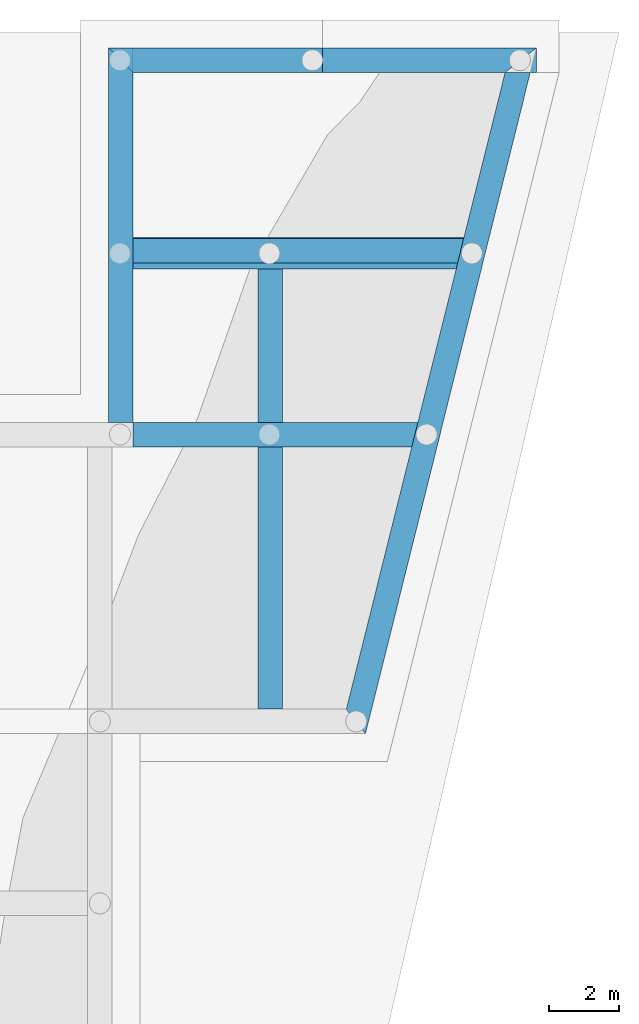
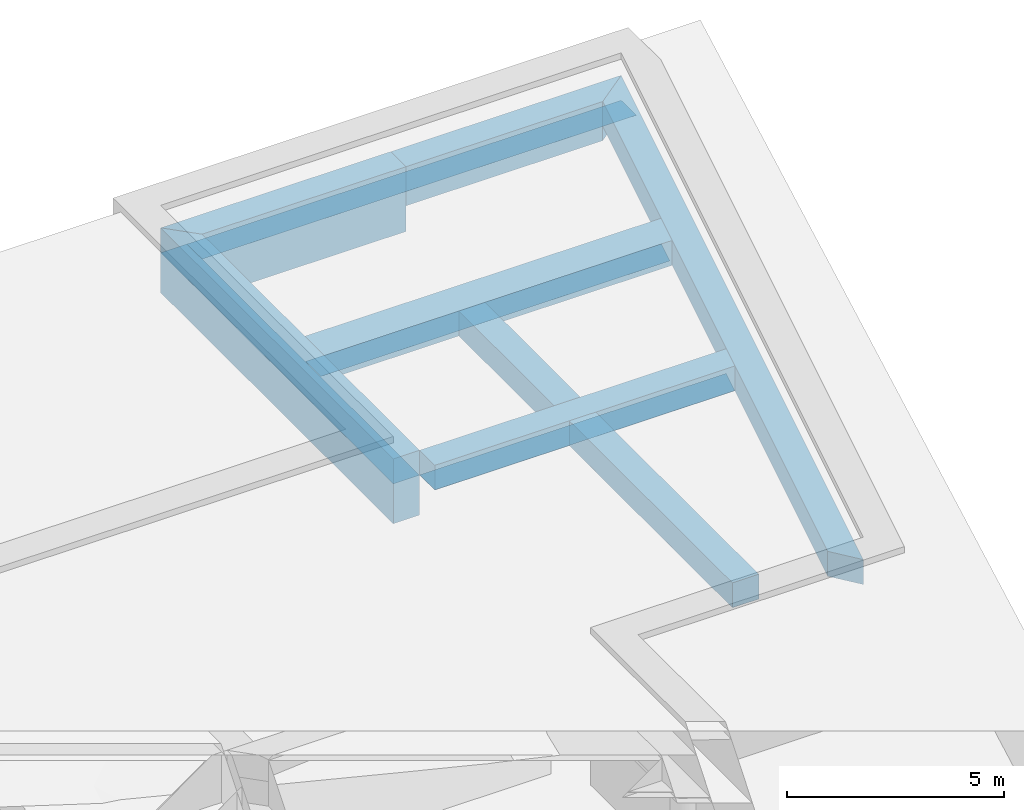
# One storey, part 4 of 7: 12 walls.
"""IFC2X3 building model written with IfcOpenShell, lengths in millimetres."""

from ifc_helpers import new_model, entity, si_unit, converted_unit, derived_unit, money_unit, direction, frame, origin_with_axes, place, context, subcontext, project, spatial, polyline, outline, extrude, material, layer, layer_set, layer_usage, type_object, element, save


model = new_model("IFC2X3")

# Units and contexts
model_context = context("Model", 3, precision=0.01, world=origin_with_axes(), true_north=direction((0.0, 1.0)))
body_context = subcontext(model_context, "Body", "Model", "MODEL_VIEW")
ifc_project = project(units=[si_unit("LENGTHUNIT", "METRE", prefix="MILLI"), si_unit("AREAUNIT", "SQUARE_METRE"), si_unit("VOLUMEUNIT", "CUBIC_METRE"), converted_unit("PLANEANGLEUNIT", "DEGREE", entity("IfcPlaneAngleMeasure", 0.0174532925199), si_unit("PLANEANGLEUNIT", "RADIAN"), dimensions=[0, 0, 0, 0, 0, 0, 0]), money_unit("USD"), converted_unit("TIMEUNIT", "Year", entity("IfcTimeMeasure", 31556926.0), si_unit("TIMEUNIT", "SECOND"), dimensions=[0, 0, 1, 0, 0, 0, 0]), si_unit("MASSUNIT", "GRAM", prefix="KILO"), si_unit("THERMODYNAMICTEMPERATUREUNIT", "DEGREE_CELSIUS"), si_unit("LUMINOUSINTENSITYUNIT", "LUMEN"), si_unit("ENERGYUNIT", "JOULE", prefix="MEGA"), derived_unit("THERMALCONDUCTANCEUNIT", [(si_unit("POWERUNIT", "WATT"), 1), (si_unit("LENGTHUNIT", "METRE"), -1), (si_unit("THERMODYNAMICTEMPERATUREUNIT", "KELVIN"), -1)]), derived_unit("SPECIFICHEATCAPACITYUNIT", [(si_unit("ENERGYUNIT", "JOULE"), 1), (si_unit("MASSUNIT", "GRAM", prefix="KILO"), -1), (si_unit("THERMODYNAMICTEMPERATUREUNIT", "KELVIN"), -1)]), derived_unit("MASSDENSITYUNIT", [(si_unit("MASSUNIT", "GRAM", prefix="KILO"), 1), (si_unit("VOLUMEUNIT", "CUBIC_METRE"), -1)])], contexts=[model_context])

# Site, building, storey
site_placement = place(None, frame((9669.71692459, 4224.13032188, 0.0), z_axis=(0.0, 0.0, 1.0), x_axis=(1.0, 0.0, 0.0)))
site = spatial("IfcSite", under=ifc_project, at=site_placement, Name="Exteriér", CompositionType="ELEMENT")
building_placement = place(site_placement, origin_with_axes())
building = spatial("IfcBuilding", under=site, at=building_placement, Name="Budova", CompositionType="ELEMENT")
storey_placement = place(building_placement, frame((0.0, 0.0, -5000.0), z_axis=(0.0, 0.0, 1.0), x_axis=(1.0, 0.0, 0.0)))
storey = spatial("IfcBuildingStorey", under=building, at=storey_placement, Name="Základy", CompositionType="ELEMENT", Elevation=-5000.0)

# Walls
ifc_material_1 = material(Name="Železobeton C 20/25")
ifc_layer_1 = layer(ifc_material_1, 700.0, ventilated="UNKNOWN")
ifc_layer_set_1 = layer_set([ifc_layer_1], Name="Železobeton C 20/25 700")
ifc_layer_usage_1 = layer_usage(ifc_layer_set_1, "AXIS2", "POSITIVE", -700.0)
wall_type_1 = type_object("IfcWallType", Name="Železobeton C 20/25 700", PredefinedType="NOTDEFINED")
wall_1_placement = place(storey_placement, frame((29704.737132, 31139.0524992, 3790.0), z_axis=(0.0, 0.0, 1.0), x_axis=(1.0, 0.0, 0.0)))
element("IfcWallStandardCase", 1, at=wall_1_placement, inside=storey, type_object=wall_type_1, material=ifc_layer_usage_1, Name="ST19", context=body_context, shape_type="SweptSolid", body=[
    extrude(outline(polyline([(0.0, -700.0), (7966.19695427, -700.0), (8140.67504558, 0.0), (0.0, 0.0), (0.0, -700.0)])), origin_with_axes(), (0.0, 0.0, 1.0), 700.0),
])
ifc_layer_usage_2 = layer_usage(ifc_layer_set_1, "AXIS2", "NEGATIVE", 0.0)
wall_2_placement = place(storey_placement, frame((33274.737132, 22239.0681254, 3790.0), z_axis=(0.0, 0.0, 1.0), x_axis=(0.0, 1.0, 0.0)))
element("IfcWallStandardCase", 2, at=wall_2_placement, inside=storey, type_object=wall_type_1, material=ifc_layer_usage_2, Name="ST19", context=body_context, shape_type="SweptSolid", body=[
    extrude(outline(polyline([(700.0, -700.0), (13279.9843739, -700.0), (13279.9843739, 0.0), (700.0, 0.0), (700.0, -700.0)])), origin_with_axes(), (0.0, 0.0, 1.0), 700.0),
])
ifc_layer_usage_3 = layer_usage(ifc_layer_set_1, "AXIS2", "POSITIVE", -700.0)
wall_3_placement = place(storey_placement, frame((35119.296269, 41839.0534133, 3390.0), z_axis=(0.0, 0.0, 1.0), x_axis=(1.0, 0.0, 0.0)))
element("IfcWallStandardCase", 3, at=wall_3_placement, inside=storey, type_object=wall_type_1, material=ifc_layer_usage_3, Name="ST19", context=body_context, shape_type="SweptSolid", body=[
    extrude(outline(polyline([(0.0, -700.0), (5218.660298, -700.0), (6114.55547003, 0.0), (0.0, 0.0), (0.0, -700.0)])), origin_with_axes(), (0.0, 0.0, 1.0), 1100.0),
])
ifc_layer_usage_4 = layer_usage(ifc_layer_set_1, "AXIS2", "NEGATIVE", 700.0)
wall_4_placement = place(storey_placement, frame((29004.737132, 41839.0534133, 2670.0), z_axis=(0.0, 0.0, 1.0), x_axis=(0.0, -1.0, 0.0)))
element("IfcWallStandardCase", 4, at=wall_4_placement, inside=storey, type_object=wall_type_1, material=ifc_layer_usage_4, Name="ST19", context=body_context, shape_type="SweptSolid", body=[
    extrude(outline(polyline([(0.0, 0.0), (10700.0009141, 0.0), (10700.0009141, 700.0), (700.0, 700.0), (0.0, 0.0)])), origin_with_axes(), (0.0, 0.0, 1.0), 1820.0),
])
ifc_layer_usage_5 = layer_usage(ifc_layer_set_1, "AXIS2", "NEGATIVE", 700.0)
wall_5_placement = place(storey_placement, frame((36348.4688493, 22239.0681254, 3790.0), z_axis=(0.0, 0.0, 1.0), x_axis=(0.241854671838, 0.970312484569, 0.0)))
element("IfcWallStandardCase", 5, at=wall_5_placement, inside=storey, type_object=wall_type_1, material=ifc_layer_usage_5, Name="ST19", context=body_context, shape_type="SweptSolid", body=[
    extrude(outline(polyline([(0.0, 0.0), (20199.6630979, 0.0), (19303.7679259, 700.0), (546.938989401, 700.0), (0.0, 0.0)])), origin_with_axes(), (0.0, 0.0, 1.0), 700.0),
])
ifc_layer_usage_6 = layer_usage(ifc_layer_set_1, "AXIS2", "POSITIVE", -700.0)
wall_6_placement = place(storey_placement, frame((29004.737132, 41839.0534133, 2670.0), z_axis=(0.0, 0.0, 1.0), x_axis=(1.0, 0.0, 0.0)))
element("IfcWallStandardCase", 6, at=wall_6_placement, inside=storey, type_object=wall_type_1, material=ifc_layer_usage_6, Name="ST19", context=body_context, shape_type="SweptSolid", body=[
    extrude(outline(polyline([(700.0, -700.0), (6114.55913707, -700.0), (6114.55913707, 0.0), (0.0, 0.0), (700.0, -700.0)])), origin_with_axes(), (0.0, 0.0, 1.0), 1820.0),
])
ifc_material_2 = material(Name="Zemina - původní")
ifc_layer_2 = layer(ifc_material_2, 700.0, ventilated="UNKNOWN")
ifc_layer_set_2 = layer_set([ifc_layer_2], Name="Zemina - původní 700")
ifc_layer_usage_7 = layer_usage(ifc_layer_set_2, "AXIS2", "NEGATIVE", 700.0)
wall_type_2 = type_object("IfcWallType", Name="Zemina - původní 700", PredefinedType="NOTDEFINED")
wall_7_placement = place(storey_placement, frame((41233.8517391, 41839.0534133, 3789.0), z_axis=(0.0, 0.0, 1.0), x_axis=(-1.0, 0.0, 0.0)))
element("IfcWallStandardCase", 7, at=wall_7_placement, inside=storey, type_object=wall_type_2, material=ifc_layer_usage_7, Name="pomocné výkopy", context=body_context, shape_type="SweptSolid", body=[
    extrude(outline(polyline([(0.0, 0.0), (12229.1146071, 0.0), (12229.1146071, 700.0), (0.0, 700.0), (0.0, 0.0)])), origin_with_axes(), (0.0, 0.0, 1.0), 1.0),
])
ifc_layer_usage_8 = layer_usage(ifc_layer_set_2, "AXIS2", "NEGATIVE", 700.0)
wall_8_placement = place(storey_placement, frame((33974.737132, 22239.0681254, 3798.0), z_axis=(0.0, 0.0, 1.0), x_axis=(0.0, 1.0, 0.0)))
element("IfcWallStandardCase", 8, at=wall_8_placement, inside=storey, type_object=wall_type_2, material=ifc_layer_usage_8, Name="pomocné výkopy", context=body_context, shape_type="SweptSolid", body=[
    extrude(outline(polyline([(700.0, 0.0), (8199.98437388, 0.0), (8199.98437388, 700.0), (700.0, 700.0), (700.0, 0.0)])), origin_with_axes(), (0.0, 0.0, 1.0), 1.0),
])
ifc_layer_usage_9 = layer_usage(ifc_layer_set_2, "AXIS2", "NEGATIVE", 700.0)
wall_9_placement = place(storey_placement, frame((29004.737132, 35689.0524993, 3798.0), z_axis=(0.0, 0.0, 1.0), x_axis=(1.0, 0.0, 0.0)))
element("IfcWallStandardCase", 9, at=wall_9_placement, inside=storey, type_object=wall_type_2, material=ifc_layer_usage_9, Name="pomocné výkopy", context=body_context, shape_type="SweptSolid", body=[
    extrude(outline(polyline([(700.0, 0.0), (9974.78263914, 0.0), (10149.2607305, 700.0), (700.0, 700.0), (700.0, 0.0)])), origin_with_axes(), (0.0, 0.0, 1.0), 1.0),
])
ifc_layer_usage_10 = layer_usage(ifc_layer_set_2, "AXIS2", "NEGATIVE", 700.0)
wall_10_placement = place(storey_placement, frame((29704.737132, 30439.0524992, 3798.0), z_axis=(0.0, 0.0, 1.0), x_axis=(1.0, 0.0, 0.0)))
element("IfcWallStandardCase", 10, at=wall_10_placement, inside=storey, type_object=wall_type_2, material=ifc_layer_usage_10, Name="pomocné výkopy", context=body_context, shape_type="SweptSolid", body=[
    extrude(outline(polyline([(0.0, 0.0), (7966.19695427, 0.0), (8140.67504558, 700.0), (0.0, 700.0), (0.0, 0.0)])), origin_with_axes(), (0.0, 0.0, 1.0), 1.0),
])
ifc_layer_usage_11 = layer_usage(ifc_layer_set_2, "AXIS2", "NEGATIVE", 700.0)
wall_11_placement = place(storey_placement, frame((29004.737132, 41839.0534133, 3789.0), z_axis=(0.0, 0.0, 1.0), x_axis=(0.0, -1.0, 0.0)))
element("IfcWallStandardCase", 11, at=wall_11_placement, inside=storey, type_object=wall_type_2, material=ifc_layer_usage_11, Name="pomocné výkopy", context=body_context, shape_type="SweptSolid", body=[
    extrude(outline(polyline([(0.0, 0.0), (10700.0009141, 0.0), (10700.0009141, 700.0), (0.0, 700.0), (0.0, 0.0)])), origin_with_axes(), (0.0, 0.0, 1.0), 1.0),
])
ifc_layer_3 = layer(ifc_material_1, 900.0, ventilated="UNKNOWN")
ifc_layer_set_3 = layer_set([ifc_layer_3], Name="Železobeton C 20/25 900")
ifc_layer_usage_12 = layer_usage(ifc_layer_set_3, "AXIS2", "NEGATIVE", 900.0)
wall_type_3 = type_object("IfcWallType", Name="Železobeton C 20/25 900", PredefinedType="NOTDEFINED")
wall_12_placement = place(storey_placement, frame((29004.737132, 35519.0524993, 3790.0), z_axis=(0.0, 0.0, 1.0), x_axis=(1.0, 0.0, 0.0)))
element("IfcWallStandardCase", 12, at=wall_12_placement, inside=storey, type_object=wall_type_3, material=ifc_layer_usage_12, Name="ST19", context=body_context, shape_type="SweptSolid", body=[
    extrude(outline(polyline([(700.0, 0.0), (9932.40938839, 0.0), (10156.7383629, 900.0), (700.0, 900.0), (700.0, 0.0)])), origin_with_axes(), (0.0, 0.0, 1.0), 700.0),
])

save(model, "model.ifc")
